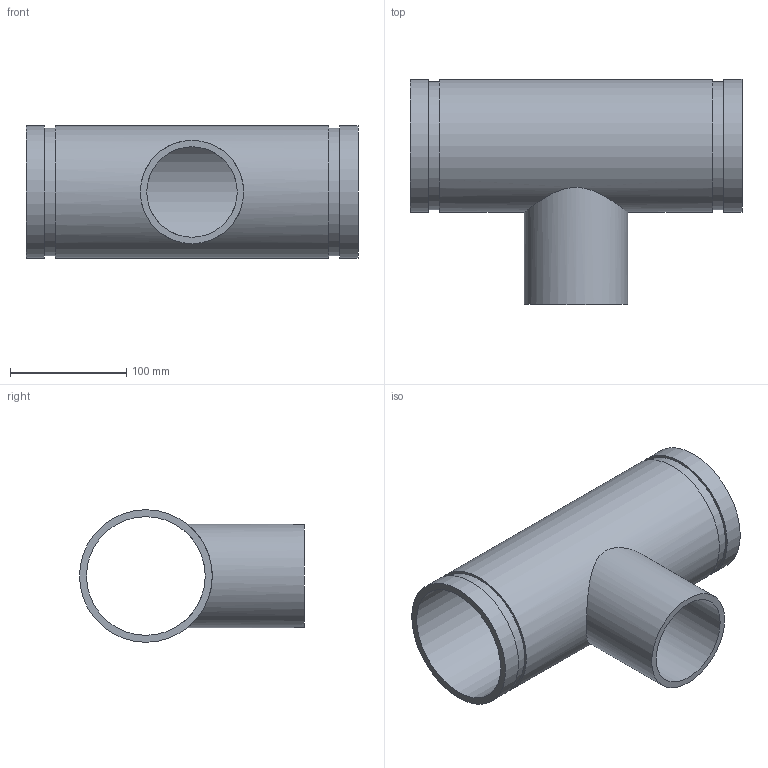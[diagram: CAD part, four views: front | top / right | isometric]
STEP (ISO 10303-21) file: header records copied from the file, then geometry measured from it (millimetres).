
FILE_DESCRIPTION(/* description */ ('VIC REDUCING TEE No 29T FFT (OGSxMPT)','CAx-IF Rec.Pracs.---Representation and Presentation of Product Manufacturing Information (PMI)---4.0---2014-10-13'),/* implementation_level */ '2;1');
FILE_NAME(/* name */ 'C:\Users\kkamble\AppData\Roaming\Autodesk\ApplicationPlugins\Back Up\Victaulic_IPS_Tee Reducing_No 29T FFT (OGSxMPT)\Victaulic_IPS_Tee Reducing_No 29T FFT (OGSxMPT)_04.0x03.0 (100x80).stp',/* time_stamp */ '2020-09-16T22:38:08+05:00',/* author */ ('CORINNE GRAY'),/* organization */ ('Victaulic'),/* preprocessor_version */ 'ST-DEVELOPER v17.2',/* originating_system */ 'Autodesk Inventor 2019',/* authorisation */ '');
FILE_SCHEMA (('AP242_MANAGED_MODEL_BASED_3D_ENGINEERING_MIM_LF { 1 0 10303 442 1 1 4 }'));
Length unit declared in the file: inch
Products named in the file (1): 29 FFT-04.0x03.0
Bounding box: 286 x 193.8 x 114.3 mm (x, y, z)
Volume: 667222.7 mm3; surface area: 238794.1 mm2
Topology: 1 solids, 1 shells, 15 faces, 32 edges, 24 vertices
Faces by surface type: cylinder 8, plane 7
Full cylindrical faces by diameter (mm): 77.927 x1, 88.9 x1, 102.26 x1, 110.084 x2, 114.3 x3
Entity records: 709 total; most frequent: CARTESIAN_POINT 221, DIRECTION 106, ORIENTED_EDGE 64, AXIS2_PLACEMENT_3D 49, EDGE_CURVE 32, EDGE_LOOP 24, VERTEX_POINT 24, CIRCLE 20
